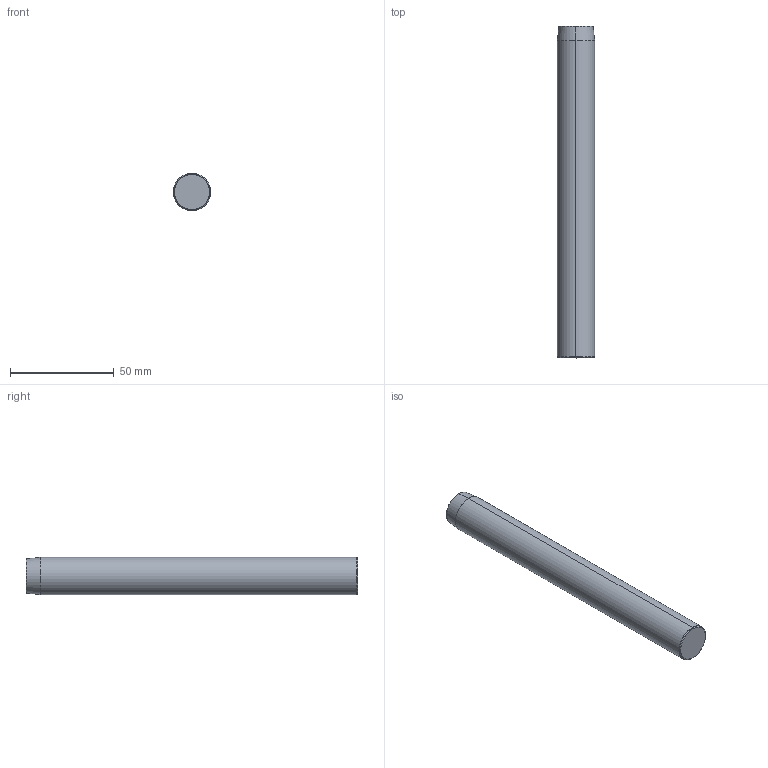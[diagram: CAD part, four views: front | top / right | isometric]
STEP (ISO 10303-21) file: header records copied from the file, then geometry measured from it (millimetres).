
FILE_DESCRIPTION( ( 'STEP AP203' ), '1' );
FILE_NAME( 'D:/Delta 3 D/D09/D09 - 18x160.step', '2002-12-31T22:30:50', ( ' ' ), ( ' ' ), 'XStep 1.0', ' ', ' ' );
FILE_SCHEMA( ( 'CONFIG_CONTROL_DESIGN' ) );
Length unit declared in the file: metre
Products named in the file (1): 1
Bounding box: 18 x 160 x 18 mm (x, y, z)
Volume: 40565.1 mm3; surface area: 9478.5 mm2
Topology: 1 solids, 1 shells, 20 faces, 38 edges, 20 vertices
Faces by surface type: bspline 12, revolution 8
Entity records: 665 total; most frequent: CARTESIAN_POINT 281, ORIENTED_EDGE 76, DIRECTION 58, EDGE_CURVE 38, AXIS2_PLACEMENT_3D 21, ADVANCED_FACE 20, FACE_OUTER_BOUND 20, EDGE_LOOP 20
